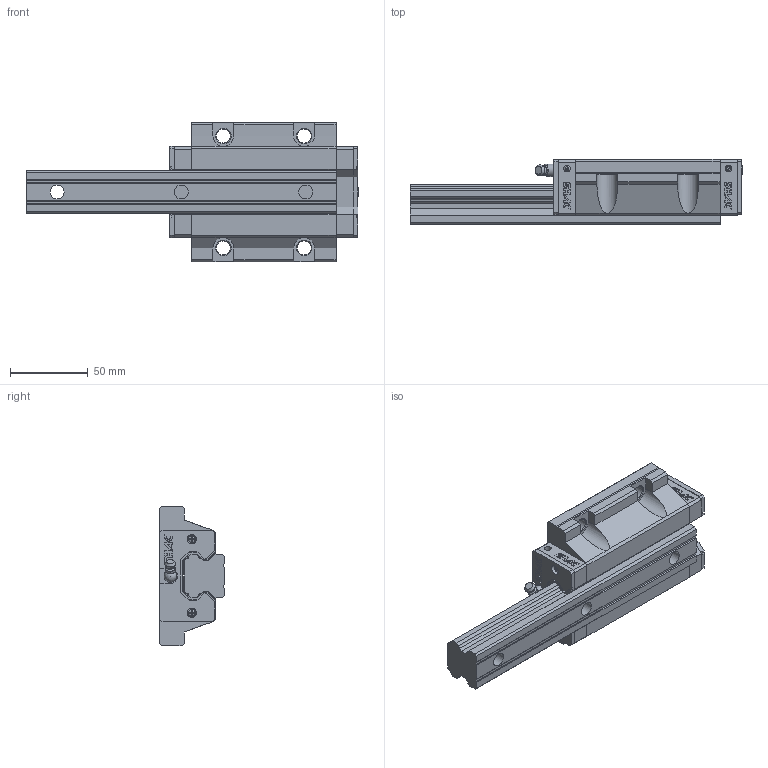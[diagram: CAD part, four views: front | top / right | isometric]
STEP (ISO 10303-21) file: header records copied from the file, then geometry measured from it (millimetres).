
FILE_DESCRIPTION( ( 'STEP AP214' ), '1' );
FILE_NAME( 'F:/品牌/SHAC 台湾鼎翰传动科技有限公司/3D滑块/GHW30HB1R200Z0C-20_20_1_1_.stp', '2025-04-21T22:48:06', ( 'License CC BY-ND 4.0' ), ( 'CADENAS' ), ' ', 'PARTsolutions', ' ' );
FILE_SCHEMA( ( 'AUTOMOTIVE_DESIGN { 1 0 10303 214 1 1 1 1 }' ) );
Length unit declared in the file: millimetre
Products named in the file (8): GHW30HB1R200Z0C-20/20(1_1); _GHR30R200C+RC-20/20(1)_RAIL; _GHW30HB_SLIDER; _GHW30HB_C; _GHW30HB_P; _GH30_SCREW; _GH30_BOLT; _GH30-_G
Assembly tree (12 placements, depth 2):
  GHW30HB1R200Z0C-20/20(1_1)
    _GHR30R200C+RC-20/20(1)_RAIL
    _GHW30HB_SLIDER
    _GHW30HB_C  x2
    _GHW30HB_P  x2
    _GH30_SCREW  x4
    _GH30_BOLT
    _GH30-_G
Bounding box: 213.64 x 42 x 90 mm (x, y, z)
Volume: 360733.9 mm3; surface area: 78792.8 mm2
Topology: 12 solids, 12 shells, 803 faces, 2135 edges, 1409 vertices
Faces by surface type: plane 652, cylinder 111, cone 24, torus 10, sphere 5, bspline 1
Full cylindrical faces by diameter (mm): 0.576 x4, 3.3 x4, 4.26 x6, 4.5 x1, 4.65 x4, 6 x6, 6.5 x2, 8 x1, 8.2 x1, 9 x7, 14 x3
Entity records: 19301 total; most frequent: CARTESIAN_POINT 2833, ORIENTED_EDGE 2538, DIRECTION 2452, EDGE_CURVE 1269, LINE 1046, VECTOR 1046, VERTEX_POINT 864, AXIS2_PLACEMENT_3D 703
